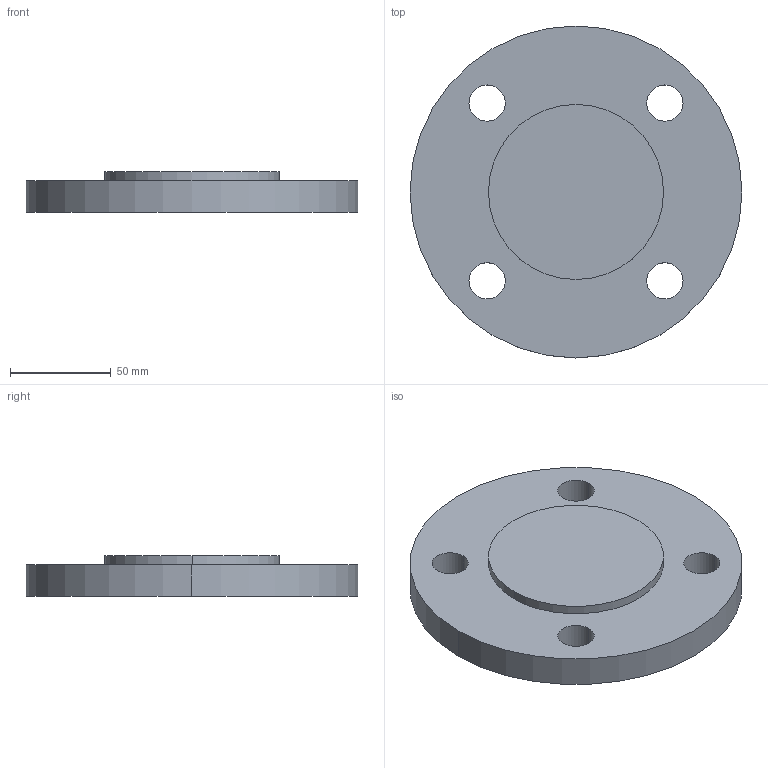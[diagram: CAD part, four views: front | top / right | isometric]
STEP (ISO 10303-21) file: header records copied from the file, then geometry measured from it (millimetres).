
FILE_DESCRIPTION (( 'STEP AP214' ), '1' );
FILE_NAME ('PN40 DN50 Type 05 - Type E Face.STEP', '2018-12-30T04:40:36', ( '' ), ( '' ), 'SwSTEP 2.0', 'SolidWorks 2019', '' );
FILE_SCHEMA (( 'AUTOMOTIVE_DESIGN' ));
Length unit declared in the file: millimetre
Products named in the file (1): PN40 DN50 Type 05 - Type E Face
Bounding box: 165 x 165 x 20 mm (x, y, z)
Volume: 342402.2 mm3; surface area: 53499.8 mm2
Topology: 1 solids, 1 shells, 15 faces, 36 edges, 24 vertices
Faces by surface type: cylinder 12, plane 3
Entity records: 504 total; most frequent: DIRECTION 92, CARTESIAN_POINT 76, ORIENTED_EDGE 72, AXIS2_PLACEMENT_3D 40, EDGE_CURVE 36, CIRCLE 24, VERTEX_POINT 24, EDGE_LOOP 24
